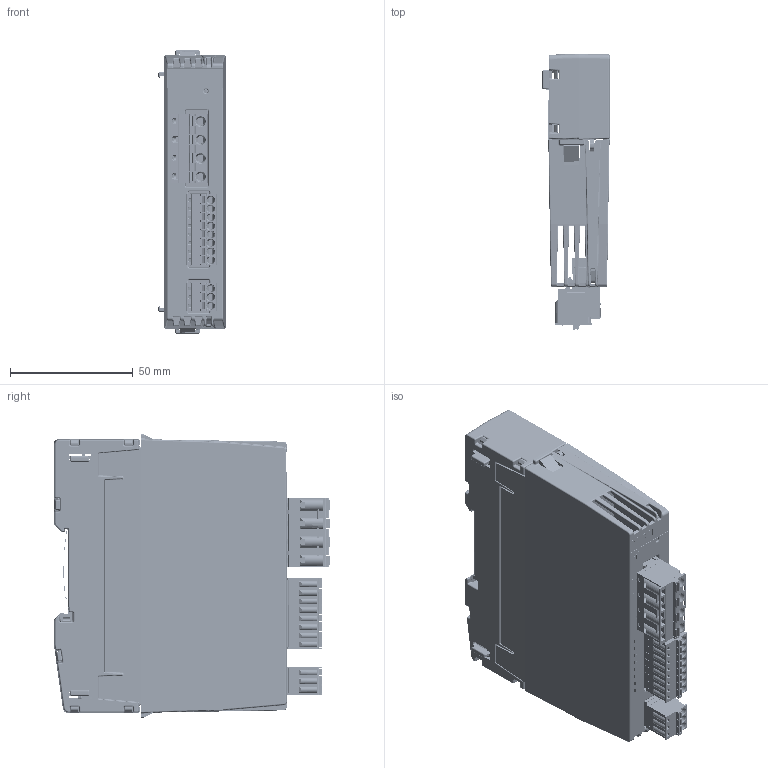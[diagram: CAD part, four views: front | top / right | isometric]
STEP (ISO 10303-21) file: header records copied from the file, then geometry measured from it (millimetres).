
FILE_DESCRIPTION(/* description */ (''),/* implementation_level */ '2;1');
FILE_NAME(/* name */ 'C:\Users\Public\Documents\Autodesk\Inventor 2023\PM03B_Simplified+BackBB21A.stp',/* time_stamp */ '2024-10-17T19:40:06+02:00',/* author */ ('shoma'),/* organization */ (''),/* preprocessor_version */ 'ST-DEVELOPER v19',/* originating_system */ 'Autodesk Inventor 2023',/* authorisation */ '');
FILE_SCHEMA (('AUTOMOTIVE_DESIGN { 1 0 10303 214 3 1 1 }'));
Products named in the file (1): PM03B_Simplified+BackBB21A
Bounding box: 27.4 x 112.6 x 115.5 mm (x, y, z)
Volume: 135794.5 mm3; surface area: 89497.5 mm2
Topology: 7 solids, 42 shells, 8471 faces, 22747 edges, 14321 vertices
Faces by surface type: plane 5476, cylinder 2072, bspline 575, sphere 163, cone 139, torus 46
Full cylindrical faces by diameter (mm): 0.296 x2, 0.3 x36, 0.434 x1, 0.457 x2, 0.7 x36, 0.8 x6, 0.85 x24, 0.9 x8, 1.17 x11, 1.25 x11, 1.3 x11, 1.4 x8, 1.5 x4, 1.6 x9, 2.35 x2, 2.5 x1, 2.8 x3, 3 x5, 3.1 x11, 3.25 x2, 4 x4
Entity records: 287486 total; most frequent: CARTESIAN_POINT 66967, ORIENTED_EDGE 45148, DIRECTION 42699, EDGE_CURVE 22574, LINE 16507, VECTOR 16507, VERTEX_POINT 14317, AXIS2_PLACEMENT_3D 13096
